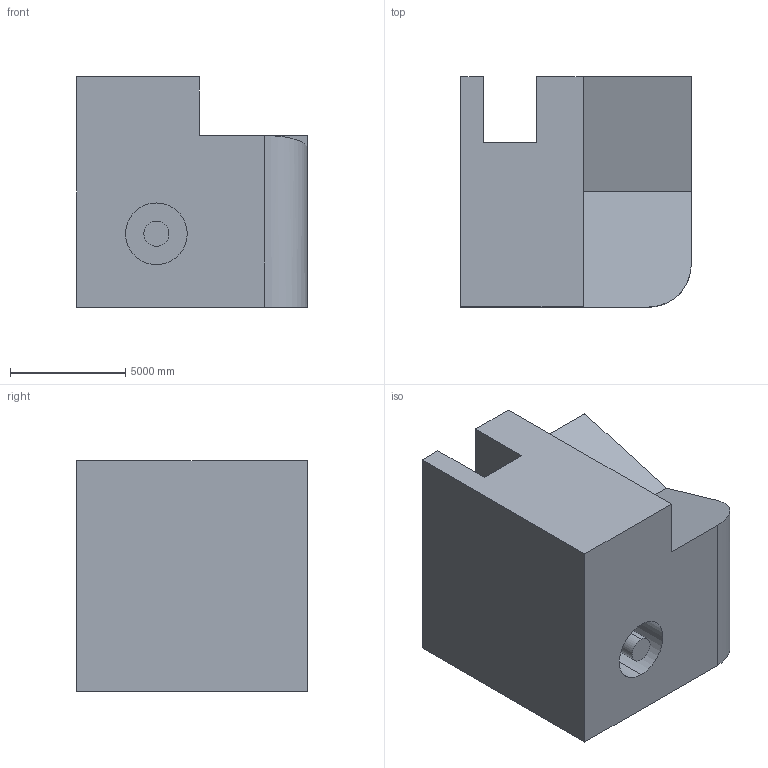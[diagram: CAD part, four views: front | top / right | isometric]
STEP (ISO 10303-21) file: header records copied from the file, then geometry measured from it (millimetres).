
FILE_DESCRIPTION (( 'STEP AP203' ), '1' );
FILE_NAME ('367.STEP', '2022-07-28T14:30:34', ( 'user' ), ( '' ), 'SwSTEP 2.0', 'SolidWorks 2021', '' );
FILE_SCHEMA (( 'CONFIG_CONTROL_DESIGN' ));
Length unit declared in the file: centimetre
Products named in the file (1): 367
Bounding box: 10000 x 10000 x 10000 mm (x, y, z)
Volume: 747967289821 mm3; surface area: 682579088.7 mm2
Topology: 1 solids, 1 shells, 20 faces, 48 edges, 32 vertices
Faces by surface type: plane 15, cylinder 5
Entity records: 658 total; most frequent: CARTESIAN_POINT 104, DIRECTION 98, ORIENTED_EDGE 96, EDGE_CURVE 48, LINE 38, VECTOR 38, VERTEX_POINT 32, AXIS2_PLACEMENT_3D 30
